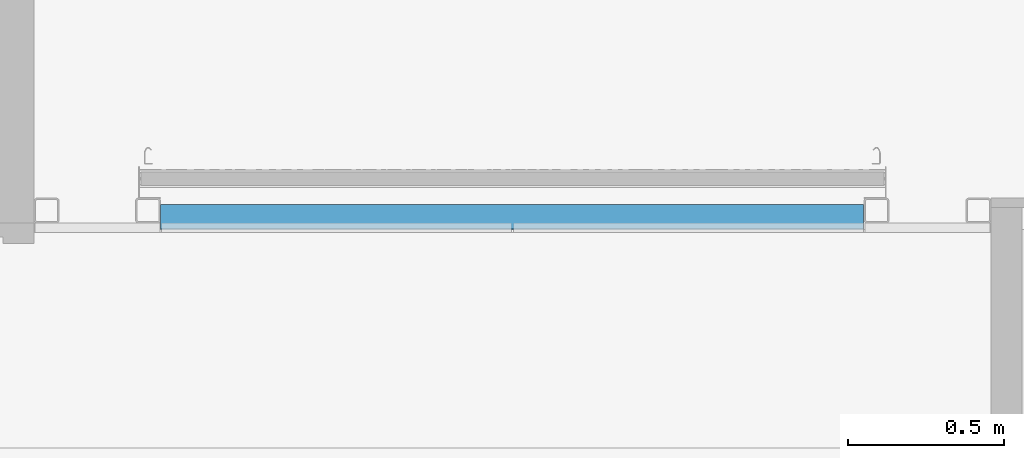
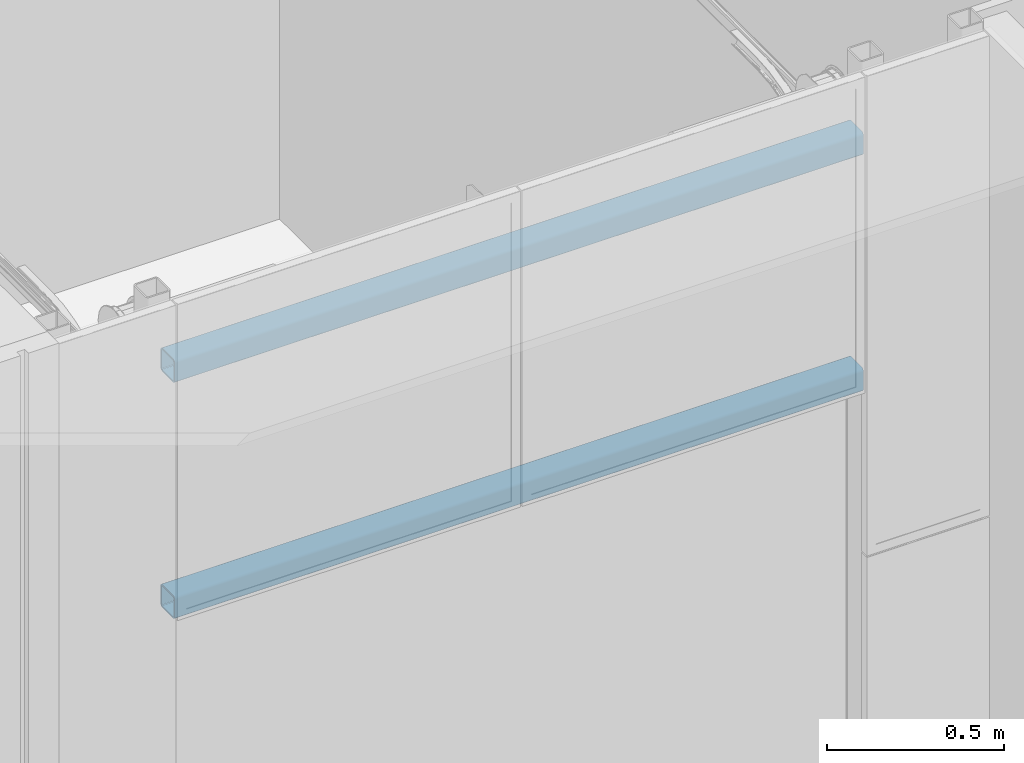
# One storey, part 6 of 77: 2 beams.
"""IFC2X3 building model written with IfcOpenShell, lengths in millimetres."""

from ifc_helpers import new_model, entity, si_unit, converted_unit, derived_unit, direction, frame, frame_2d, origin, place, context, subcontext, project, spatial, polyline, circle_curve, parameter, trimmed, segment, composite_curve, outline, extrude, material, type_object, element, save


model = new_model("IFC2X3")

# Units and contexts
model_context = context("Model", 3, precision=0.01, world=origin(), true_north=direction((6.12303176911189e-17, 1.0)))
body_context = subcontext(model_context, "Body", "Model", "MODEL_VIEW")
ifc_project = project(units=[si_unit("LENGTHUNIT", "METRE", prefix="MILLI"), si_unit("AREAUNIT", "SQUARE_METRE"), si_unit("VOLUMEUNIT", "CUBIC_METRE"), converted_unit("PLANEANGLEUNIT", "DEGREE", entity("IfcRatioMeasure", 0.0174532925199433), si_unit("PLANEANGLEUNIT", "RADIAN"), dimensions=[0, 0, 0, 0, 0, 0, 0]), si_unit("MASSUNIT", "GRAM", prefix="KILO"), derived_unit("MASSDENSITYUNIT", [(si_unit("MASSUNIT", "GRAM", prefix="KILO"), 1), (si_unit("LENGTHUNIT", "METRE"), -3)]), si_unit("TIMEUNIT", "SECOND"), si_unit("FREQUENCYUNIT", "HERTZ"), si_unit("THERMODYNAMICTEMPERATUREUNIT", "DEGREE_CELSIUS"), derived_unit("THERMALTRANSMITTANCEUNIT", [(si_unit("MASSUNIT", "GRAM", prefix="KILO"), 1), (si_unit("THERMODYNAMICTEMPERATUREUNIT", "KELVIN"), -1), (si_unit("TIMEUNIT", "SECOND"), -3)]), derived_unit("VOLUMETRICFLOWRATEUNIT", [(si_unit("LENGTHUNIT", "METRE"), 3), (si_unit("TIMEUNIT", "SECOND"), -1)]), si_unit("ELECTRICCURRENTUNIT", "AMPERE"), si_unit("ELECTRICVOLTAGEUNIT", "VOLT"), si_unit("POWERUNIT", "WATT"), si_unit("FORCEUNIT", "NEWTON", prefix="KILO"), si_unit("ILLUMINANCEUNIT", "LUX"), si_unit("LUMINOUSFLUXUNIT", "LUMEN"), si_unit("LUMINOUSINTENSITYUNIT", "CANDELA"), derived_unit("USERDEFINED", [(si_unit("MASSUNIT", "GRAM", prefix="KILO"), -1), (si_unit("LENGTHUNIT", "METRE"), -2), (si_unit("TIMEUNIT", "SECOND"), 3), (si_unit("LUMINOUSFLUXUNIT", "LUMEN"), 1)]), derived_unit("LINEARVELOCITYUNIT", [(si_unit("LENGTHUNIT", "METRE"), 1), (si_unit("TIMEUNIT", "SECOND"), -1)]), si_unit("PRESSUREUNIT", "PASCAL"), derived_unit("USERDEFINED", [(si_unit("LENGTHUNIT", "METRE"), -2), (si_unit("MASSUNIT", "GRAM", prefix="KILO"), 1), (si_unit("TIMEUNIT", "SECOND"), -2)])], contexts=[model_context])

# Site, building, storey
site_placement = place(None, origin())
site = spatial("IfcSite", under=ifc_project, at=site_placement, Name="Default", CompositionType="ELEMENT")
building_placement = place(site_placement, origin())
building = spatial("IfcBuilding", under=site, at=building_placement, CompositionType="ELEMENT")
storey_placement = place(building_placement, origin())
storey = spatial("IfcBuildingStorey", under=building, at=storey_placement, Name="1. KORRUS", CompositionType="ELEMENT", Elevation=0.0)

# Beams
ifc_material = material(Name="Steel, 45-345")
beam_type = type_object("IfcBeamType", Name="RHS-Rectangular Hollow Section:80x80", PredefinedType="BEAM")
beam_1_placement = place(storey_placement, frame((6034.76481329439, 36139.9994344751, 2355.0)))
element("IfcBeam", 1, at=beam_1_placement, inside=storey, type_object=beam_type, material=ifc_material, Name="RHS-Rectangular Hollow Section:80x80", ObjectType="RHS-Rectangular Hollow Section:80x80", context=body_context, shape_type="SweptSolid", body=[
    extrude(outline(composite_curve([segment(trimmed(circle_curve(frame_2d((-30.0, -30.0), x_axis=(1.0, 0.0)), 10.0), [parameter(180.0)], [parameter(270.0)], True, "PARAMETER"), True, "CONTINUOUS"), segment(polyline([(-30.0, -40.0), (30.0, -40.0)]), True, "CONTINUOUS"), segment(trimmed(circle_curve(frame_2d((30.0, -30.0), x_axis=(1.0, 0.0)), 10.0), [parameter(270.0)], [parameter(1.01777749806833e-13)], True, "PARAMETER"), True, "CONTINUOUS"), segment(polyline([(40.0, -30.0), (40.0, 30.0)]), True, "CONTINUOUS"), segment(trimmed(circle_curve(frame_2d((30.0, 30.0), x_axis=(1.0, 0.0)), 10.0), [parameter(360.0)], [parameter(89.9999999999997)], True, "PARAMETER"), True, "CONTINUOUS"), segment(polyline([(30.0, 40.0), (-30.0, 40.0)]), True, "CONTINUOUS"), segment(trimmed(circle_curve(frame_2d((-30.0, 30.0), x_axis=(1.0, 0.0)), 10.0), [parameter(90.0000000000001)], [parameter(180.0)], True, "PARAMETER"), True, "CONTINUOUS"), segment(polyline([(-40.0, 30.0), (-40.0, -30.0)]), True, "CONTINUOUS")], self_intersect=False), holes=[composite_curve([segment(polyline([(30.0, -35.0), (-30.0, -35.0)]), True, "CONTINUOUS"), segment(trimmed(circle_curve(frame_2d((-30.0, -30.0), x_axis=(1.0, 0.0)), 5.0), [parameter(180.0)], [parameter(270.0)], True, "PARAMETER"), False, "CONTINUOUS"), segment(polyline([(-35.0, -30.0), (-35.0, 30.0)]), True, "CONTINUOUS"), segment(trimmed(circle_curve(frame_2d((-30.0, 30.0), x_axis=(1.0, 0.0)), 5.0), [parameter(90.0000000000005)], [parameter(180.0)], True, "PARAMETER"), False, "CONTINUOUS"), segment(polyline([(-30.0, 35.0), (30.0, 35.0)]), True, "CONTINUOUS"), segment(trimmed(circle_curve(frame_2d((30.0, 30.0), x_axis=(1.0, 0.0)), 5.0), [parameter(0.0)], [parameter(90.0000000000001)], True, "PARAMETER"), False, "CONTINUOUS"), segment(polyline([(35.0, 30.0), (35.0, -30.0)]), True, "CONTINUOUS"), segment(trimmed(circle_curve(frame_2d((30.0, -30.0), x_axis=(1.0, 0.0)), 5.0), [parameter(270.0)], [parameter(4.57999874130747e-13)], True, "PARAMETER"), False, "CONTINUOUS")], self_intersect=False)]), frame((109.427612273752, 0.0, -40.0), z_axis=(1.0, 0.0, 0.0), x_axis=(0.0, -1.0, 0.0)), (0.0, 0.0, 1.0), 2247.99898808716),
])
beam_2_placement = place(storey_placement, frame((6034.76481329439, 36139.9994344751, 3170.0)))
element("IfcBeam", 2, at=beam_2_placement, inside=storey, type_object=beam_type, material=ifc_material, Name="RHS-Rectangular Hollow Section:80x80", ObjectType="RHS-Rectangular Hollow Section:80x80", context=body_context, shape_type="SweptSolid", body=[
    extrude(outline(composite_curve([segment(trimmed(circle_curve(frame_2d((-30.0, -30.0), x_axis=(1.0, 0.0)), 10.0), [parameter(180.0)], [parameter(270.0)], True, "PARAMETER"), True, "CONTINUOUS"), segment(polyline([(-30.0, -40.0), (30.0, -40.0)]), True, "CONTINUOUS"), segment(trimmed(circle_curve(frame_2d((30.0, -30.0), x_axis=(1.0, 0.0)), 10.0), [parameter(270.0)], [parameter(1.01777749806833e-13)], True, "PARAMETER"), True, "CONTINUOUS"), segment(polyline([(40.0, -30.0), (40.0, 30.0)]), True, "CONTINUOUS"), segment(trimmed(circle_curve(frame_2d((30.0, 30.0), x_axis=(1.0, 0.0)), 10.0), [parameter(360.0)], [parameter(89.9999999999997)], True, "PARAMETER"), True, "CONTINUOUS"), segment(polyline([(30.0, 40.0), (-30.0, 40.0)]), True, "CONTINUOUS"), segment(trimmed(circle_curve(frame_2d((-30.0, 30.0), x_axis=(1.0, 0.0)), 10.0), [parameter(90.0000000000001)], [parameter(180.0)], True, "PARAMETER"), True, "CONTINUOUS"), segment(polyline([(-40.0, 30.0), (-40.0, -30.0)]), True, "CONTINUOUS")], self_intersect=False), holes=[composite_curve([segment(polyline([(30.0, -35.0), (-30.0, -35.0)]), True, "CONTINUOUS"), segment(trimmed(circle_curve(frame_2d((-30.0, -30.0), x_axis=(1.0, 0.0)), 5.0), [parameter(180.0)], [parameter(270.0)], True, "PARAMETER"), False, "CONTINUOUS"), segment(polyline([(-35.0, -30.0), (-35.0, 30.0)]), True, "CONTINUOUS"), segment(trimmed(circle_curve(frame_2d((-30.0, 30.0), x_axis=(1.0, 0.0)), 5.0), [parameter(90.0000000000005)], [parameter(180.0)], True, "PARAMETER"), False, "CONTINUOUS"), segment(polyline([(-30.0, 35.0), (30.0, 35.0)]), True, "CONTINUOUS"), segment(trimmed(circle_curve(frame_2d((30.0, 30.0), x_axis=(1.0, 0.0)), 5.0), [parameter(0.0)], [parameter(90.0000000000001)], True, "PARAMETER"), False, "CONTINUOUS"), segment(polyline([(35.0, 30.0), (35.0, -30.0)]), True, "CONTINUOUS"), segment(trimmed(circle_curve(frame_2d((30.0, -30.0), x_axis=(1.0, 0.0)), 5.0), [parameter(270.0)], [parameter(4.57999874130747e-13)], True, "PARAMETER"), False, "CONTINUOUS")], self_intersect=False)]), frame((109.427612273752, 0.0, -40.0), z_axis=(1.0, 0.0, 0.0), x_axis=(0.0, -1.0, 0.0)), (0.0, 0.0, 1.0), 2247.99898808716),
])

save(model, "model.ifc")
